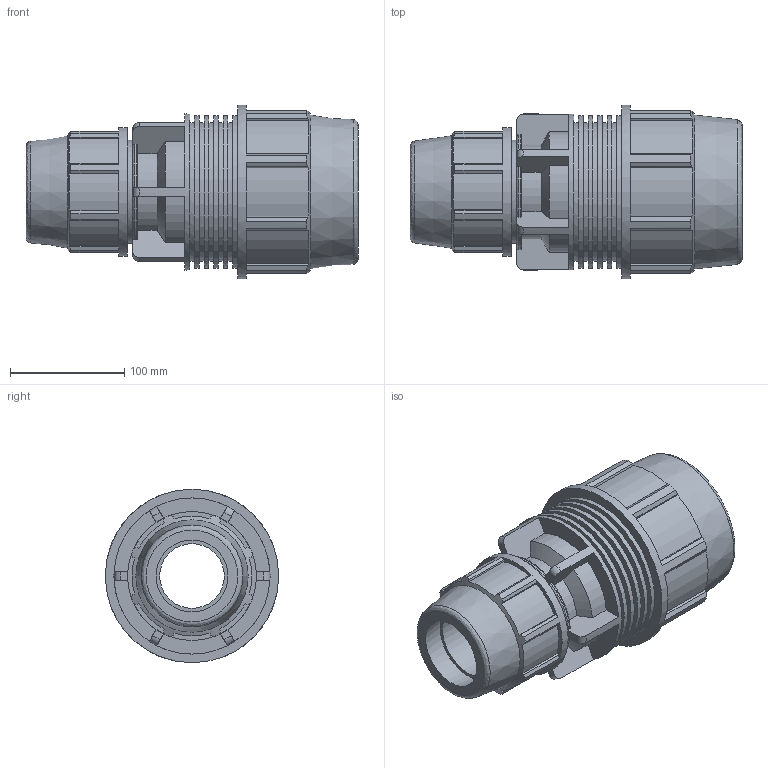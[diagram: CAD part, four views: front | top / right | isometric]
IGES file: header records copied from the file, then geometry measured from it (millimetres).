
Global section: file name: 871100090063_181100090063.ipt; native system: Autodesk Inventor 2015; preprocessor: unknown; author: KIM; date: 20170608.042521; units: millimetre
Bounding box: 291 x 152 x 152 mm (x, y, z)
Volume: 1851565.9 mm3; surface area: 259350.8 mm2
Topology: 1 solids, 1 shells, 207 faces, 580 edges, 392 vertices
Faces by surface type: plane 123, cylinder 54, revolution 20, cone 10
Full cylindrical faces by diameter (mm): 90.4 x1, 113 x1, 121.6 x5, 134.064 x5, 136.8 x1, 152 x1
